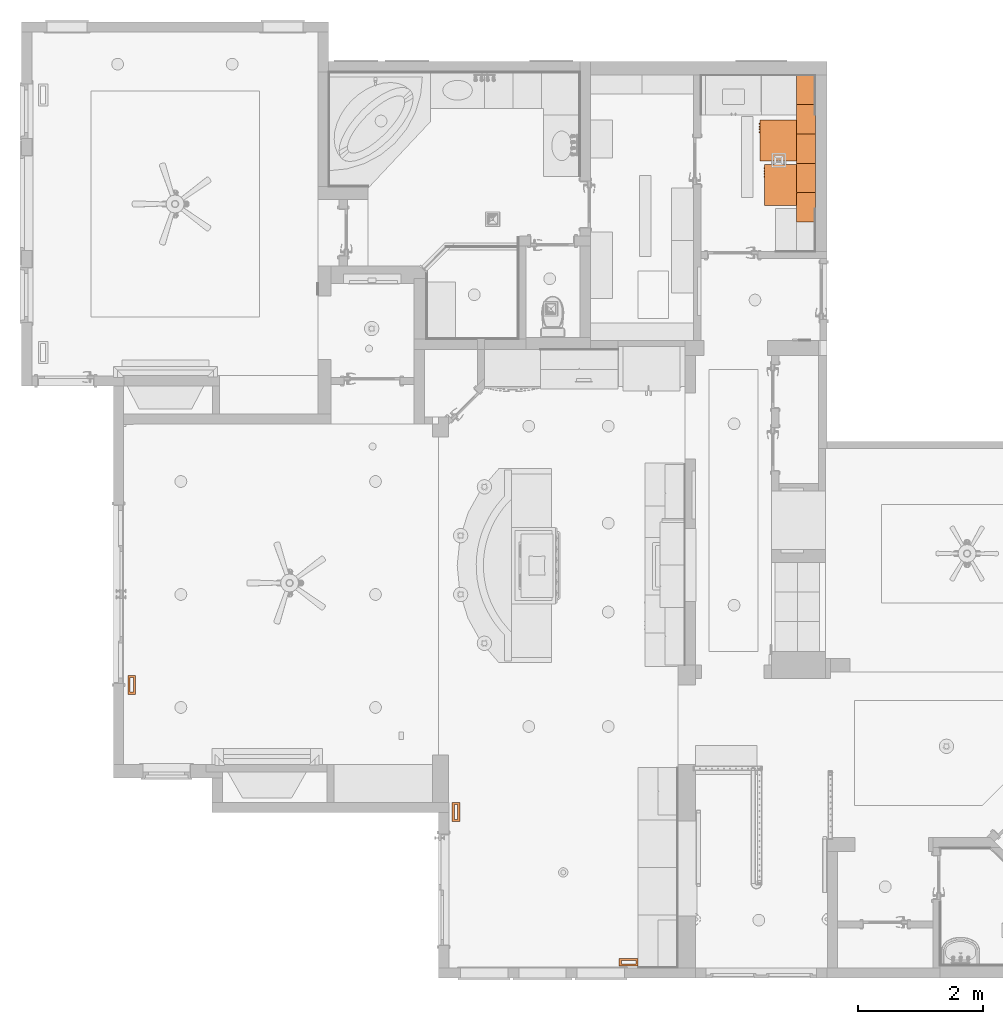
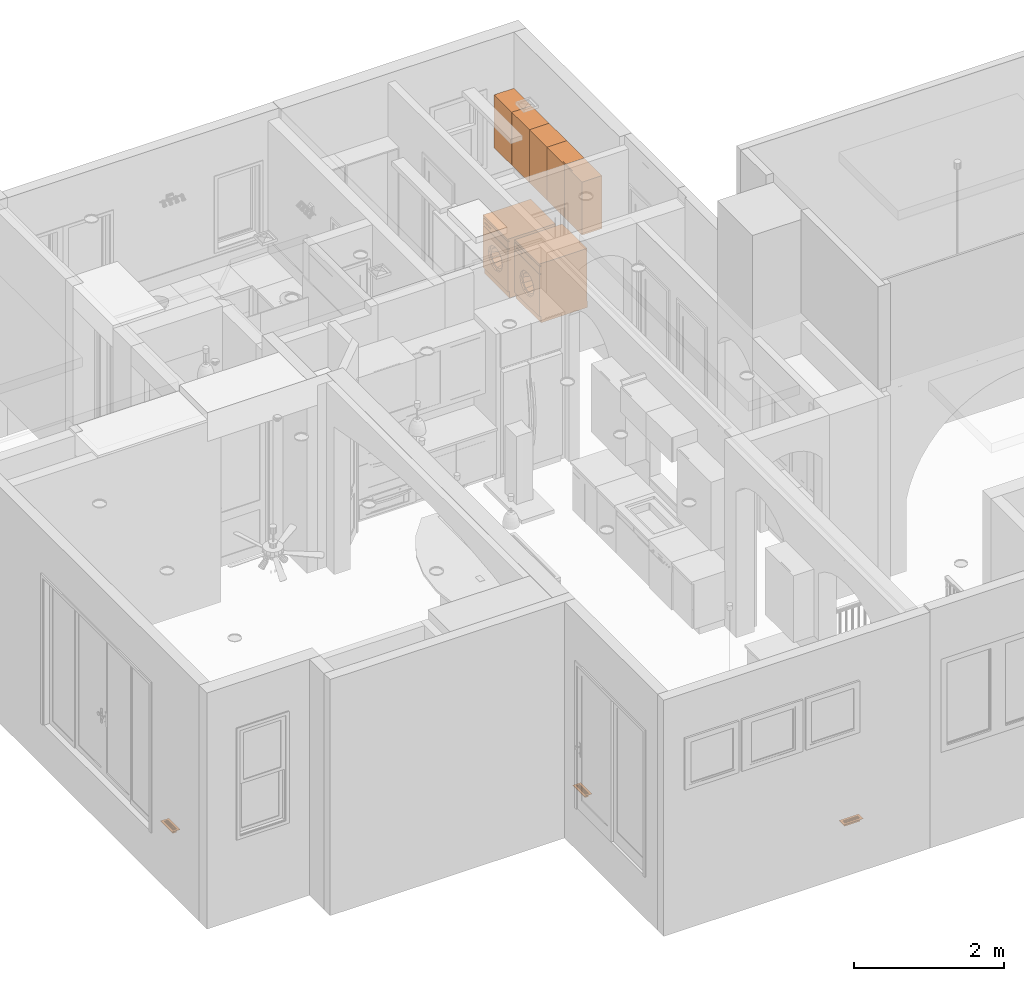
# One storey, part 58 of 77: 10 proxies.
"""IFC2X3 building model written with IfcOpenShell, lengths in inches."""

from ifc_helpers import new_model, entity, si_unit, converted_unit, derived_unit, money_unit, direction, frame, origin_with_axes, place, context, subcontext, project, spatial, open_shell, faceted_brep, surface_model, source, transform, mapped, type_object, element, save


model = new_model("IFC2X3")

# Units and contexts
model_context = context("Model", 3, precision=0.000393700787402, world=origin_with_axes(), true_north=direction((0.0, 1.0)))
body_context = subcontext(model_context, "Body", "Model", "MODEL_VIEW")
ifc_project = project(units=[converted_unit("LENGTHUNIT", "INCH", entity("IfcPositiveLengthMeasure", 0.0254), si_unit("LENGTHUNIT", "METRE"), dimensions=[1, 0, 0, 0, 0, 0, 0]), converted_unit("AREAUNIT", "SQUARE_FOOT", entity("IfcPositiveLengthMeasure", 0.09290304), si_unit("AREAUNIT", "SQUARE_METRE"), dimensions=[2, 0, 0, 0, 0, 0, 0]), si_unit("PLANEANGLEUNIT", "RADIAN"), si_unit("SOLIDANGLEUNIT", "STERADIAN"), money_unit("USD"), converted_unit("TIMEUNIT", "Year", entity("IfcTimeMeasure", 31556926.0), si_unit("TIMEUNIT", "SECOND"), dimensions=[0, 0, 1, 0, 0, 0, 0]), si_unit("MASSUNIT", "GRAM", prefix="KILO"), si_unit("THERMODYNAMICTEMPERATUREUNIT", "DEGREE_CELSIUS"), si_unit("LUMINOUSINTENSITYUNIT", "LUMEN"), si_unit("ENERGYUNIT", "JOULE", prefix="MEGA"), derived_unit("THERMALCONDUCTANCEUNIT", [(si_unit("POWERUNIT", "WATT"), 1), (si_unit("LENGTHUNIT", "METRE"), -1), (si_unit("THERMODYNAMICTEMPERATUREUNIT", "KELVIN"), -1)]), derived_unit("SPECIFICHEATCAPACITYUNIT", [(si_unit("ENERGYUNIT", "JOULE"), 1), (si_unit("MASSUNIT", "GRAM", prefix="KILO"), -1), (si_unit("THERMODYNAMICTEMPERATUREUNIT", "KELVIN"), -1)]), derived_unit("MASSDENSITYUNIT", [(si_unit("MASSUNIT", "GRAM", prefix="KILO"), 1), (si_unit("VOLUMEUNIT", "CUBIC_METRE"), -1)])], contexts=[model_context])

# Site, building, storey
site_placement = place(None, origin_with_axes())
site = spatial("IfcSite", under=ifc_project, at=site_placement, Name="Site", CompositionType="ELEMENT")
building_placement = place(site_placement, origin_with_axes())
building = spatial("IfcBuilding", under=site, at=building_placement, Name="Building", CompositionType="ELEMENT")
storey_placement = place(building_placement, frame((0.0, 0.0, 127.952755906), z_axis=(0.0, 0.0, 1.0), x_axis=(1.0, 0.0, 0.0)))
storey = spatial("IfcBuildingStorey", under=building, at=storey_placement, Name="Second Floor", CompositionType="ELEMENT", Elevation=127.953)

# Proxies
building_element_proxy_type_1 = type_object("IfcBuildingElementProxyType", Name="Wall Cabinet Block 25", PredefinedType="NOTDEFINED")
shared_shape_1 = source(origin_with_axes(), body_context, "Body", "Brep", [
    faceted_brep([(-0.75, -11.25, 76.6525590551), (-0.75, -11.25, 77.4025590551), (-17.7539370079, -11.25, 77.4025590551), (-17.7539370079, -11.25, 76.6525590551), (-0.75, -0.75, 76.6525590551), (-0.75, -0.75, 77.4025590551), (-17.7539370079, -0.75, 77.4025590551), (-17.7539370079, -0.75, 76.6525590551)], [[[0, 1, 2, 3]], [[4, 5, 1, 0]], [[1, 5, 6, 2]], [[3, 2, 6, 7]], [[0, 3, 7, 4]], [[7, 6, 5, 4]]]),
    faceted_brep([(-0.0393700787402, -11.25, 60.0393700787), (-0.0393700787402, -12.0, 60.0393700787), (-18.4645669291, -12.0, 60.0393700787), (-18.4645669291, -11.25, 60.0393700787), (-0.0393700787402, -11.25, 94.0157480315), (-0.0393700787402, -12.0, 94.0157480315), (-18.4645669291, -12.0, 94.0157480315), (-18.4645669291, -11.25, 94.0157480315)], [[[0, 1, 2, 3]], [[4, 5, 1, 0]], [[1, 5, 6, 2]], [[3, 2, 6, 7]], [[0, 3, 7, 4]], [[7, 6, 5, 4]]]),
    faceted_brep([(-0.75, -11.25, 60.0), (-0.75, -11.25, 60.75), (-17.7539370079, -11.25, 60.75), (-17.7539370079, -11.25, 60.0), (-0.75, 0.0, 60.0), (-0.75, 0.0, 60.75), (-17.7539370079, 0.0, 60.75), (-17.7539370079, 0.0, 60.0)], [[[0, 1, 2, 3]], [[4, 5, 1, 0]], [[1, 5, 6, 2]], [[3, 2, 6, 7]], [[0, 3, 7, 4]], [[7, 6, 5, 4]]]),
    faceted_brep([(-0.75, -11.25, 93.3051181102), (-0.75, -11.25, 94.0551181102), (-17.7539370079, -11.25, 94.0551181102), (-17.7539370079, -11.25, 93.3051181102), (-0.75, 0.0, 93.3051181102), (-0.75, 0.0, 94.0551181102), (-17.7539370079, 0.0, 94.0551181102), (-17.7539370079, 0.0, 93.3051181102)], [[[0, 1, 2, 3]], [[4, 5, 1, 0]], [[1, 5, 6, 2]], [[3, 2, 6, 7]], [[0, 3, 7, 4]], [[7, 6, 5, 4]]]),
    faceted_brep([(0.0, 0.0, 60.0), (0.0, 0.0, 94.0551181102), (0.0, -11.25, 94.0551181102), (0.0, -11.25, 60.0), (-0.75, 0.0, 60.0), (-0.75, 0.0, 94.0551181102), (-0.75, -11.25, 94.0551181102), (-0.75, -11.25, 60.0)], [[[0, 1, 2, 3]], [[4, 5, 1, 0]], [[1, 5, 6, 2]], [[3, 2, 6, 7]], [[0, 3, 7, 4]], [[7, 6, 5, 4]]]),
    faceted_brep([(-18.5039370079, -11.25, 60.0), (-18.5039370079, -11.25, 94.0551181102), (-18.5039370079, 0.0, 94.0551181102), (-18.5039370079, 0.0, 60.0), (-17.7539370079, -11.25, 60.0), (-17.7539370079, -11.25, 94.0551181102), (-17.7539370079, 0.0, 94.0551181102), (-17.7539370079, 0.0, 60.0)], [[[0, 1, 2, 3]], [[4, 5, 1, 0]], [[1, 5, 6, 2]], [[3, 2, 6, 7]], [[0, 3, 7, 4]], [[7, 6, 5, 4]]]),
    faceted_brep([(-17.7539370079, -0.375, 60.75), (-17.7539370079, -0.375, 93.3051181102), (-0.75, -0.375, 93.3051181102), (-0.75, -0.375, 60.75), (-17.7539370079, -0.75, 60.75), (-17.7539370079, -0.75, 93.3051181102), (-0.75, -0.75, 93.3051181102), (-0.75, -0.75, 60.75)], [[[0, 1, 2, 3]], [[4, 5, 1, 0]], [[1, 5, 6, 2]], [[3, 2, 6, 7]], [[0, 3, 7, 4]], [[7, 6, 5, 4]]]),
])
for number, where, z_axis, x_axis, name in (
    (1, (719.519431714, 506.998678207, -4.09448818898), (0.0, 0.0, 1.0), (0.0, -1.0, 0.0), "FU - 008"),
    (2, (719.519431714, 544.006552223, -4.09448818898), (0.0, 0.0, 1.0), (0.0, -1.0, 0.0), "FU - 008"),
):
    element("IfcBuildingElementProxy", number, at=place(storey_placement, frame(where, z_axis=z_axis, x_axis=x_axis)), inside=storey, type_object=building_element_proxy_type_1, Name=name, context=body_context, shape_type="MappedRepresentation", body=[
        mapped(shared_shape_1, transform((0.0, 0.0, 0.0))),
    ])
building_element_proxy_type_2 = type_object("IfcBuildingElementProxyType", Name="Washer 25", PredefinedType="NOTDEFINED")
shared_shape_2 = source(origin_with_axes(), body_context, "Body", "SurfaceModel", [
    faceted_brep([(-13.0, -27.9724409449, 4.22222222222), (13.0, -27.9724409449, 4.22222222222), (13.0, -28.937007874, 4.22222222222), (-13.0, -28.937007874, 4.22222222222), (-13.0, -27.9724409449, 31.2444444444), (13.0, -27.9724409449, 31.2444444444), (7.42857142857, -27.9724409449, 17.7333333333), (6.43333157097, -27.9724409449, 21.4476190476), (3.71428571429, -27.9724409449, 24.1666649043), (0.0, -27.9724409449, 25.1619047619), (-3.71428571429, -27.9724409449, 24.1666649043), (-6.43333157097, -27.9724409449, 21.4476190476), (-7.42857142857, -27.9724409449, 17.7333333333), (-6.43333157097, -27.9724409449, 14.019047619), (-3.71428571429, -27.9724409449, 11.3000017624), (0.0, -27.9724409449, 10.3047619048), (3.71428571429, -27.9724409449, 11.3000017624), (6.43333157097, -27.9724409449, 14.019047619), (13.0, -28.937007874, 31.2444444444), (-13.0, -28.937007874, 31.2444444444), (7.42857142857, -28.937007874, 17.7333333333), (6.43333157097, -28.937007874, 14.019047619), (3.71428571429, -28.937007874, 11.3000017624), (0.0, -28.937007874, 10.3047619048), (-3.71428571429, -28.937007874, 11.3000017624), (-6.43333157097, -28.937007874, 14.019047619), (-7.42857142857, -28.937007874, 17.7333333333), (-6.43333157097, -28.937007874, 21.4476190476), (-3.71428571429, -28.937007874, 24.1666649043), (0.0, -28.937007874, 25.1619047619), (3.71428571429, -28.937007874, 24.1666649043), (6.43333157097, -28.937007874, 21.4476190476)], [[[0, 1, 2, 3]], [[0, 4, 5, 1], [6, 7, 8, 9, 10, 11, 12, 13, 14, 15, 16, 17]], [[1, 5, 18, 2]], [[3, 2, 18, 19], [20, 21, 22, 23, 24, 25, 26, 27, 28, 29, 30, 31]], [[4, 0, 3, 19]], [[5, 4, 19, 18]], [[7, 6, 20, 31]], [[8, 7, 31, 30]], [[9, 8, 30, 29]], [[10, 9, 29, 28]], [[11, 10, 28, 27]], [[12, 11, 27, 26]], [[13, 12, 26, 25]], [[14, 13, 25, 24]], [[15, 14, 24, 23]], [[16, 15, 23, 22]], [[17, 16, 22, 21]], [[6, 17, 21, 20]]]),
    faceted_brep([(7.42857142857, -27.0078740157, 17.7333333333), (6.43333157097, -27.0078740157, 21.4476190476), (6.43333157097, -27.9724409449, 21.4476190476), (7.42857142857, -27.9724409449, 17.7333333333), (6.43333157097, -27.0078740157, 14.019047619), (3.71428571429, -27.0078740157, 11.3000017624), (0.0, -27.0078740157, 10.3047619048), (-3.71428571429, -27.0078740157, 11.3000017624), (-6.43333157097, -27.0078740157, 14.019047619), (-7.42857142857, -27.0078740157, 17.7333333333), (-6.43333157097, -27.0078740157, 21.4476190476), (-3.71428571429, -27.0078740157, 24.1666649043), (0.0, -27.0078740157, 25.1619047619), (3.71428571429, -27.0078740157, 24.1666649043), (5.94285714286, -27.0078740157, 17.7333333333), (5.14666525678, -27.0078740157, 20.7047619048), (2.97142857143, -27.0078740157, 22.8799985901), (0.0, -27.0078740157, 23.6761904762), (-2.97142857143, -27.0078740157, 22.8799985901), (-5.14666525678, -27.0078740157, 20.7047619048), (-5.94285714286, -27.0078740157, 17.7333333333), (-5.14666525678, -27.0078740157, 14.7619047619), (-2.97142857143, -27.0078740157, 12.5866680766), (0.0, -27.0078740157, 11.7904761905), (2.97142857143, -27.0078740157, 12.5866680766), (5.14666525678, -27.0078740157, 14.7619047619), (3.71428571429, -27.9724409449, 24.1666649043), (0.0, -27.9724409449, 25.1619047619), (-3.71428571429, -27.9724409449, 24.1666649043), (-6.43333157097, -27.9724409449, 21.4476190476), (-7.42857142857, -27.9724409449, 17.7333333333), (-6.43333157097, -27.9724409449, 14.019047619), (-3.71428571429, -27.9724409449, 11.3000017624), (0.0, -27.9724409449, 10.3047619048), (3.71428571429, -27.9724409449, 11.3000017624), (6.43333157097, -27.9724409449, 14.019047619), (5.94285714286, -27.9724409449, 17.7333333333), (5.14666525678, -27.9724409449, 14.7619047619), (2.97142857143, -27.9724409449, 12.5866680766), (0.0, -27.9724409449, 11.7904761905), (-2.97142857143, -27.9724409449, 12.5866680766), (-5.14666525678, -27.9724409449, 14.7619047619), (-5.94285714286, -27.9724409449, 17.7333333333), (-5.14666525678, -27.9724409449, 20.7047619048), (-2.97142857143, -27.9724409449, 22.8799985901), (0.0, -27.9724409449, 23.6761904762), (2.97142857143, -27.9724409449, 22.8799985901), (5.14666525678, -27.9724409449, 20.7047619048)], [[[0, 1, 2, 3]], [[0, 4, 5, 6, 7, 8, 9, 10, 11, 12, 13, 1], [14, 15, 16, 17, 18, 19, 20, 21, 22, 23, 24, 25]], [[1, 13, 26, 2]], [[3, 2, 26, 27, 28, 29, 30, 31, 32, 33, 34, 35], [36, 37, 38, 39, 40, 41, 42, 43, 44, 45, 46, 47]], [[4, 0, 3, 35]], [[5, 4, 35, 34]], [[6, 5, 34, 33]], [[7, 6, 33, 32]], [[8, 7, 32, 31]], [[9, 8, 31, 30]], [[10, 9, 30, 29]], [[11, 10, 29, 28]], [[12, 11, 28, 27]], [[13, 12, 27, 26]], [[15, 14, 36, 47]], [[16, 15, 47, 46]], [[17, 16, 46, 45]], [[18, 17, 45, 44]], [[19, 18, 44, 43]], [[20, 19, 43, 42]], [[21, 20, 42, 41]], [[22, 21, 41, 40]], [[23, 22, 40, 39]], [[24, 23, 39, 38]], [[25, 24, 38, 37]], [[14, 25, 37, 36]]]),
    surface_model("IfcShellBasedSurfaceModel", [(-2.97142857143, -27.0078740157, 22.8799985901), (0.0, -27.0078740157, 23.6761904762), (0.0, -22.1850393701, 22.1904761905), (-2.22857142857, -22.1850393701, 21.5933322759), (2.97142857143, -27.0078740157, 22.8799985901), (2.22857142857, -22.1850393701, 21.5933322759), (3.85999894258, -22.1850393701, 19.9619047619), (4.45714285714, -22.1850393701, 17.7333333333), (3.85999894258, -22.1850393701, 15.5047619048), (2.22857142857, -22.1850393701, 13.8733343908), (0.0, -22.1850393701, 13.2761904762), (-2.22857142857, -22.1850393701, 13.8733343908), (-3.85999894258, -22.1850393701, 15.5047619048), (-4.45714285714, -22.1850393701, 17.7333333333), (-3.85999894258, -22.1850393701, 19.9619047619), (-5.14666525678, -27.0078740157, 20.7047619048), (5.14666525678, -27.0078740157, 20.7047619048), (5.94285714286, -27.0078740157, 17.7333333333), (5.14666525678, -27.0078740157, 14.7619047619), (2.97142857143, -27.0078740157, 12.5866680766), (0.0, -27.0078740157, 11.7904761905), (-2.97142857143, -27.0078740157, 12.5866680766), (-5.14666525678, -27.0078740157, 14.7619047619), (-5.94285714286, -27.0078740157, 17.7333333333)], [open_shell([[[0, 1, 2, 3]], [[1, 4, 5, 2]], [[2, 5, 6, 7, 8, 9, 10, 11, 12, 13, 14, 3]], [[15, 0, 3, 14]], [[4, 16, 6, 5]], [[16, 17, 7, 6]], [[17, 18, 8, 7]], [[18, 19, 9, 8]], [[19, 20, 10, 9]], [[20, 21, 11, 10]], [[21, 22, 12, 11]], [[22, 23, 13, 12]], [[23, 15, 14, 13]]])]),
    surface_model("IfcShellBasedSurfaceModel", [(-13.0, -27.9724409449, 4.22222222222), (-13.0, -27.9724409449, 36.7333333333), (-13.0, 0.0, 36.7333333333), (-13.0, 0.0, 4.22222222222)], [open_shell([[[0, 1, 2, 3]]])]),
    surface_model("IfcShellBasedSurfaceModel", [(13.0, -27.9724409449, 4.22222222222), (13.0, -27.9724409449, 36.7333333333), (13.0, 0.0, 36.7333333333), (13.0, 0.0, 4.22222222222)], [open_shell([[[0, 1, 2, 3]]])]),
    surface_model("IfcShellBasedSurfaceModel", [(-13.0, 0.0, 4.22222222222), (-13.0, 0.0, 36.7333333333), (13.0, 0.0, 36.7333333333), (13.0, 0.0, 4.22222222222)], [open_shell([[[0, 1, 2, 3]]])]),
    faceted_brep([(-13.0, -27.9724409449, 0.0), (13.0, -27.9724409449, 0.0), (13.0, -27.9724409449, 4.22222222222), (-13.0, -27.9724409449, 4.22222222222), (-13.0, 0.177165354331, 0.0), (13.0, 0.177165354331, 0.0), (13.0, 0.177165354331, 4.22222222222), (-13.0, 0.177165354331, 4.22222222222)], [[[0, 1, 2, 3]], [[0, 4, 5, 1]], [[1, 5, 6, 2]], [[3, 2, 6, 7]], [[4, 0, 3, 7]], [[5, 4, 7, 6]]]),
    faceted_brep([(-13.0, -27.9724409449, 31.6666666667), (13.0, -27.9724409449, 31.6666666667), (13.0, -28.937007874, 31.6666666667), (-13.0, -28.937007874, 31.6666666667), (-13.0, -27.9724409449, 36.3111111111), (13.0, -27.9724409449, 36.3111111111), (13.0, -28.937007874, 36.3111111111), (-13.0, -28.937007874, 36.3111111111)], [[[0, 1, 2, 3]], [[0, 4, 5, 1]], [[1, 5, 6, 2]], [[3, 2, 6, 7]], [[4, 0, 3, 7]], [[5, 4, 7, 6]]]),
    surface_model("IfcShellBasedSurfaceModel", [(-13.0, -27.9724409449, 31.2444444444), (-13.0, -27.9724409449, 36.7333333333), (13.0, -27.9724409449, 36.7333333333), (13.0, -27.9724409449, 31.2444444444)], [open_shell([[[0, 1, 2, 3]]])]),
    faceted_brep([(-13.0, -28.937007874, 36.7333333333), (13.0, -28.937007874, 36.7333333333), (13.0, -28.937007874, 38.0), (-13.0, -28.937007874, 38.0), (-13.0, 0.0, 36.7333333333), (13.0, 0.0, 36.7333333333), (13.0, 0.0, 38.0), (-13.0, 0.0, 38.0)], [[[0, 1, 2, 3]], [[0, 4, 5, 1]], [[1, 5, 6, 2]], [[3, 2, 6, 7]], [[4, 0, 3, 7]], [[5, 4, 7, 6]]]),
    faceted_brep([(-10.024722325, -28.937007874, 33.9833333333), (-10.1833333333, -28.937007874, 33.824722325), (-10.4, -28.937007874, 33.7666666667), (-10.6166666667, -28.937007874, 33.824722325), (-10.775277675, -28.937007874, 33.9833333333), (-10.8333333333, -28.937007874, 34.2), (-10.775277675, -28.937007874, 34.4166666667), (-10.6166666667, -28.937007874, 34.575277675), (-10.4, -28.937007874, 34.6333333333), (-10.1833333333, -28.937007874, 34.575277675), (-10.024722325, -28.937007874, 34.4166666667), (-9.96666666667, -28.937007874, 34.2), (-10.024722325, -29.4192913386, 33.9833333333), (-10.1833333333, -29.4192913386, 33.824722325), (-10.4, -29.4192913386, 33.7666666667), (-10.6166666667, -29.4192913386, 33.824722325), (-10.775277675, -29.4192913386, 33.9833333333), (-10.8333333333, -29.4192913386, 34.2), (-10.775277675, -29.4192913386, 34.4166666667), (-10.6166666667, -29.4192913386, 34.575277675), (-10.4, -29.4192913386, 34.6333333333), (-10.1833333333, -29.4192913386, 34.575277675), (-10.024722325, -29.4192913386, 34.4166666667), (-9.96666666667, -29.4192913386, 34.2)], [[[0, 1, 2, 3, 4, 5, 6, 7, 8, 9, 10, 11]], [[1, 0, 12, 13]], [[2, 1, 13, 14]], [[3, 2, 14, 15]], [[4, 3, 15, 16]], [[5, 4, 16, 17]], [[6, 5, 17, 18]], [[7, 6, 18, 19]], [[8, 7, 19, 20]], [[9, 8, 20, 21]], [[10, 9, 21, 22]], [[11, 10, 22, 23]], [[0, 11, 23, 12]], [[12, 23, 22, 21, 20, 19, 18, 17, 16, 15, 14, 13]]]),
    faceted_brep([(-8.29138899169, -28.937007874, 33.9833333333), (-8.45, -28.937007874, 33.824722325), (-8.66666666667, -28.937007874, 33.7666666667), (-8.88333333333, -28.937007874, 33.824722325), (-9.04194434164, -28.937007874, 33.9833333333), (-9.1, -28.937007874, 34.2), (-9.04194434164, -28.937007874, 34.4166666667), (-8.88333333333, -28.937007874, 34.575277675), (-8.66666666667, -28.937007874, 34.6333333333), (-8.45, -28.937007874, 34.575277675), (-8.29138899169, -28.937007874, 34.4166666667), (-8.23333333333, -28.937007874, 34.2), (-8.29138899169, -29.4192913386, 33.9833333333), (-8.45, -29.4192913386, 33.824722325), (-8.66666666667, -29.4192913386, 33.7666666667), (-8.88333333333, -29.4192913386, 33.824722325), (-9.04194434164, -29.4192913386, 33.9833333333), (-9.1, -29.4192913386, 34.2), (-9.04194434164, -29.4192913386, 34.4166666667), (-8.88333333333, -29.4192913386, 34.575277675), (-8.66666666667, -29.4192913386, 34.6333333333), (-8.45, -29.4192913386, 34.575277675), (-8.29138899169, -29.4192913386, 34.4166666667), (-8.23333333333, -29.4192913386, 34.2)], [[[0, 1, 2, 3, 4, 5, 6, 7, 8, 9, 10, 11]], [[1, 0, 12, 13]], [[2, 1, 13, 14]], [[3, 2, 14, 15]], [[4, 3, 15, 16]], [[5, 4, 16, 17]], [[6, 5, 17, 18]], [[7, 6, 18, 19]], [[8, 7, 19, 20]], [[9, 8, 20, 21]], [[10, 9, 21, 22]], [[11, 10, 22, 23]], [[0, 11, 23, 12]], [[12, 23, 22, 21, 20, 19, 18, 17, 16, 15, 14, 13]]]),
    faceted_brep([(-6.55805565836, -28.937007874, 33.9833333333), (-6.71666666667, -28.937007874, 33.824722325), (-6.93333333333, -28.937007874, 33.7666666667), (-7.15, -28.937007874, 33.824722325), (-7.30861100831, -28.937007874, 33.9833333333), (-7.36666666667, -28.937007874, 34.2), (-7.30861100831, -28.937007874, 34.4166666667), (-7.15, -28.937007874, 34.575277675), (-6.93333333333, -28.937007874, 34.6333333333), (-6.71666666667, -28.937007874, 34.575277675), (-6.55805565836, -28.937007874, 34.4166666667), (-6.5, -28.937007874, 34.2), (-6.55805565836, -29.4192913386, 33.9833333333), (-6.71666666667, -29.4192913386, 33.824722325), (-6.93333333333, -29.4192913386, 33.7666666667), (-7.15, -29.4192913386, 33.824722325), (-7.30861100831, -29.4192913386, 33.9833333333), (-7.36666666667, -29.4192913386, 34.2), (-7.30861100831, -29.4192913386, 34.4166666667), (-7.15, -29.4192913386, 34.575277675), (-6.93333333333, -29.4192913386, 34.6333333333), (-6.71666666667, -29.4192913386, 34.575277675), (-6.55805565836, -29.4192913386, 34.4166666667), (-6.5, -29.4192913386, 34.2)], [[[0, 1, 2, 3, 4, 5, 6, 7, 8, 9, 10, 11]], [[1, 0, 12, 13]], [[2, 1, 13, 14]], [[3, 2, 14, 15]], [[4, 3, 15, 16]], [[5, 4, 16, 17]], [[6, 5, 17, 18]], [[7, 6, 18, 19]], [[8, 7, 19, 20]], [[9, 8, 20, 21]], [[10, 9, 21, 22]], [[11, 10, 22, 23]], [[0, 11, 23, 12]], [[12, 23, 22, 21, 20, 19, 18, 17, 16, 15, 14, 13]]]),
    faceted_brep([(-4.82472232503, -28.937007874, 33.9833333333), (-4.98333333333, -28.937007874, 33.824722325), (-5.2, -28.937007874, 33.7666666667), (-5.41666666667, -28.937007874, 33.824722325), (-5.57527767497, -28.937007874, 33.9833333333), (-5.63333333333, -28.937007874, 34.2), (-5.57527767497, -28.937007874, 34.4166666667), (-5.41666666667, -28.937007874, 34.575277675), (-5.2, -28.937007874, 34.6333333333), (-4.98333333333, -28.937007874, 34.575277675), (-4.82472232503, -28.937007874, 34.4166666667), (-4.76666666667, -28.937007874, 34.2), (-4.82472232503, -29.4192913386, 33.9833333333), (-4.98333333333, -29.4192913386, 33.824722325), (-5.2, -29.4192913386, 33.7666666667), (-5.41666666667, -29.4192913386, 33.824722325), (-5.57527767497, -29.4192913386, 33.9833333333), (-5.63333333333, -29.4192913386, 34.2), (-5.57527767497, -29.4192913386, 34.4166666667), (-5.41666666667, -29.4192913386, 34.575277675), (-5.2, -29.4192913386, 34.6333333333), (-4.98333333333, -29.4192913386, 34.575277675), (-4.82472232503, -29.4192913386, 34.4166666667), (-4.76666666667, -29.4192913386, 34.2)], [[[0, 1, 2, 3, 4, 5, 6, 7, 8, 9, 10, 11]], [[1, 0, 12, 13]], [[2, 1, 13, 14]], [[3, 2, 14, 15]], [[4, 3, 15, 16]], [[5, 4, 16, 17]], [[6, 5, 17, 18]], [[7, 6, 18, 19]], [[8, 7, 19, 20]], [[9, 8, 20, 21]], [[10, 9, 21, 22]], [[11, 10, 22, 23]], [[0, 11, 23, 12]], [[12, 23, 22, 21, 20, 19, 18, 17, 16, 15, 14, 13]]]),
])
for number, where, z_axis, x_axis, name in (
    (3, (716.489643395, 511.898451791, 0.0), (0.0, 0.0, 1.0), (0.0, -1.0, 0.0), "FU - 010"),
    (4, (713.487247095, 539.90717231, 0.0), (0.0, 0.0, 1.0), (0.0, -1.0, 0.0), "FU - 010"),
):
    element("IfcBuildingElementProxy", number, at=place(storey_placement, frame(where, z_axis=z_axis, x_axis=x_axis)), inside=storey, type_object=building_element_proxy_type_2, Name=name, context=body_context, shape_type="MappedRepresentation", body=[
        mapped(shared_shape_2, transform((0.0, 0.0, 0.0))),
    ])
shared_shape_3 = source(origin_with_axes(), body_context, "Body", "Brep", [
    faceted_brep([(0.75, -11.25, 76.6525590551), (17.7539370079, -11.25, 76.6525590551), (17.7539370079, -11.25, 77.4025590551), (0.75, -11.25, 77.4025590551), (0.75, -0.75, 76.6525590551), (17.7539370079, -0.75, 76.6525590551), (17.7539370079, -0.75, 77.4025590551), (0.75, -0.75, 77.4025590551)], [[[0, 1, 2, 3]], [[0, 4, 5, 1]], [[1, 5, 6, 2]], [[3, 2, 6, 7]], [[4, 0, 3, 7]], [[5, 4, 7, 6]]]),
    faceted_brep([(0.0393700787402, -11.25, 60.0393700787), (18.4645669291, -11.25, 60.0393700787), (18.4645669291, -12.0, 60.0393700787), (0.0393700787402, -12.0, 60.0393700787), (0.0393700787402, -11.25, 94.0157480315), (18.4645669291, -11.25, 94.0157480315), (18.4645669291, -12.0, 94.0157480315), (0.0393700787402, -12.0, 94.0157480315)], [[[0, 1, 2, 3]], [[0, 4, 5, 1]], [[1, 5, 6, 2]], [[3, 2, 6, 7]], [[4, 0, 3, 7]], [[5, 4, 7, 6]]]),
    faceted_brep([(0.75, -11.25, 60.0), (17.7539370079, -11.25, 60.0), (17.7539370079, -11.25, 60.75), (0.75, -11.25, 60.75), (0.75, 0.0, 60.0), (17.7539370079, 0.0, 60.0), (17.7539370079, 0.0, 60.75), (0.75, 0.0, 60.75)], [[[0, 1, 2, 3]], [[0, 4, 5, 1]], [[1, 5, 6, 2]], [[3, 2, 6, 7]], [[4, 0, 3, 7]], [[5, 4, 7, 6]]]),
    faceted_brep([(0.75, -11.25, 93.3051181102), (17.7539370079, -11.25, 93.3051181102), (17.7539370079, -11.25, 94.0551181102), (0.75, -11.25, 94.0551181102), (0.75, 0.0, 93.3051181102), (17.7539370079, 0.0, 93.3051181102), (17.7539370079, 0.0, 94.0551181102), (0.75, 0.0, 94.0551181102)], [[[0, 1, 2, 3]], [[0, 4, 5, 1]], [[1, 5, 6, 2]], [[3, 2, 6, 7]], [[4, 0, 3, 7]], [[5, 4, 7, 6]]]),
    faceted_brep([(0.0, 0.0, 60.0), (0.0, -11.25, 60.0), (0.0, -11.25, 94.0551181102), (0.0, 0.0, 94.0551181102), (0.75, 0.0, 60.0), (0.75, -11.25, 60.0), (0.75, -11.25, 94.0551181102), (0.75, 0.0, 94.0551181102)], [[[0, 1, 2, 3]], [[0, 4, 5, 1]], [[1, 5, 6, 2]], [[3, 2, 6, 7]], [[4, 0, 3, 7]], [[5, 4, 7, 6]]]),
    faceted_brep([(18.5039370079, -11.25, 60.0), (18.5039370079, 0.0, 60.0), (18.5039370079, 0.0, 94.0551181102), (18.5039370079, -11.25, 94.0551181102), (17.7539370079, -11.25, 60.0), (17.7539370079, 0.0, 60.0), (17.7539370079, 0.0, 94.0551181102), (17.7539370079, -11.25, 94.0551181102)], [[[0, 1, 2, 3]], [[0, 4, 5, 1]], [[1, 5, 6, 2]], [[3, 2, 6, 7]], [[4, 0, 3, 7]], [[5, 4, 7, 6]]]),
    faceted_brep([(17.7539370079, -0.375, 60.75), (0.75, -0.375, 60.75), (0.75, -0.375, 93.3051181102), (17.7539370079, -0.375, 93.3051181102), (17.7539370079, -0.75, 60.75), (0.75, -0.75, 60.75), (0.75, -0.75, 93.3051181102), (17.7539370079, -0.75, 93.3051181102)], [[[0, 1, 2, 3]], [[0, 4, 5, 1]], [[1, 5, 6, 2]], [[3, 2, 6, 7]], [[4, 0, 3, 7]], [[5, 4, 7, 6]]]),
])
for number, where, z_axis, x_axis, name in (
    (5, (719.519431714, 544.006552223, -4.09448818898), (0.0, 0.0, 1.0), (0.0, -1.0, 0.0), "FU - 008"),
    (6, (719.519431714, 581.014426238, -4.09448818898), (0.0, 0.0, 1.0), (0.0, -1.0, 0.0), "FU - 008"),
    (7, (719.519431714, 506.998678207, -4.09448818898), (0.0, 0.0, 1.0), (0.0, -1.0, 0.0), "FU - 008"),
):
    element("IfcBuildingElementProxy", number, at=place(storey_placement, frame(where, z_axis=z_axis, x_axis=x_axis)), inside=storey, type_object=building_element_proxy_type_1, Name=name, context=body_context, shape_type="MappedRepresentation", body=[
        mapped(shared_shape_3, transform((0.0, 0.0, 0.0))),
    ])
building_element_proxy_type_3 = type_object("IfcBuildingElementProxyType", Name="Rect Floor Register 25", PredefinedType="NOTDEFINED")
shared_shape_4 = source(origin_with_axes(), body_context, "Body", "SurfaceModel", [
    faceted_brep([(6.00393700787, 2.45669291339, 0.0), (-6.00393700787, 2.45669291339, 0.0), (-6.00393700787, 2.45669291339, 0.196850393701), (6.00393700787, 2.45669291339, 0.196850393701), (6.00393700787, -2.45669291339, 0.0), (-6.00393700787, -2.45669291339, 0.0), (4.62598425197, 1.07874015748, 0.0), (-4.62598425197, 1.07874015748, 0.0), (-4.62598425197, -1.07874015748, 0.0), (4.62598425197, -1.07874015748, 0.0), (-6.00393700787, -2.45669291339, 0.196850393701), (6.00393700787, -2.45669291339, 0.196850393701), (4.62598425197, 1.07874015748, 0.196850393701), (4.62598425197, -1.07874015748, 0.196850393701), (-4.62598425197, -1.07874015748, 0.196850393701), (-4.62598425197, 1.07874015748, 0.196850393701)], [[[0, 1, 2, 3]], [[0, 4, 5, 1], [6, 7, 8, 9]], [[1, 5, 10, 2]], [[3, 2, 10, 11], [12, 13, 14, 15]], [[4, 0, 3, 11]], [[5, 4, 11, 10]], [[7, 6, 12, 15]], [[8, 7, 15, 14]], [[9, 8, 14, 13]], [[6, 9, 13, 12]]]),
    surface_model("IfcShellBasedSurfaceModel", [(-4.58661417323, 0.984251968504, -0.787401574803), (4.58661417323, 0.984251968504, -0.787401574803), (4.58661417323, 0.984251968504, 0.196850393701), (-4.58661417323, 0.984251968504, 0.196850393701)], [open_shell([[[0, 1, 2, 3]]])]),
    surface_model("IfcShellBasedSurfaceModel", [(-4.58661417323, 0.0, -0.787401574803), (4.58661417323, 0.0, -0.787401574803), (4.58661417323, 0.0, 0.196850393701), (-4.58661417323, 0.0, 0.196850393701)], [open_shell([[[0, 1, 2, 3]]])]),
    surface_model("IfcShellBasedSurfaceModel", [(-4.58661417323, -0.984251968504, -0.787401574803), (4.58661417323, -0.984251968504, -0.787401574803), (4.58661417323, -0.984251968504, 0.196850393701), (-4.58661417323, -0.984251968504, 0.196850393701)], [open_shell([[[0, 1, 2, 3]]])]),
    surface_model("IfcShellBasedSurfaceModel", [(4.42913385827, -1.03937007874, -0.787401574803), (4.42913385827, 1.03937007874, -0.787401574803), (4.42913385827, 1.03937007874, 0.196850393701), (4.42913385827, -1.03937007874, 0.196850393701)], [open_shell([[[0, 1, 2, 3]]])]),
    surface_model("IfcShellBasedSurfaceModel", [(3.44488188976, -1.03937007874, -0.787401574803), (3.44488188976, 1.03937007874, -0.787401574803), (3.44488188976, 1.03937007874, 0.196850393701), (3.44488188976, -1.03937007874, 0.196850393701)], [open_shell([[[0, 1, 2, 3]]])]),
    surface_model("IfcShellBasedSurfaceModel", [(2.46062992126, -1.03937007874, -0.787401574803), (2.46062992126, 1.03937007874, -0.787401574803), (2.46062992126, 1.03937007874, 0.196850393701), (2.46062992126, -1.03937007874, 0.196850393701)], [open_shell([[[0, 1, 2, 3]]])]),
    surface_model("IfcShellBasedSurfaceModel", [(1.47637795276, -1.03937007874, -0.787401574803), (1.47637795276, 1.03937007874, -0.787401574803), (1.47637795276, 1.03937007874, 0.196850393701), (1.47637795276, -1.03937007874, 0.196850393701)], [open_shell([[[0, 1, 2, 3]]])]),
    surface_model("IfcShellBasedSurfaceModel", [(0.492125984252, -1.03937007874, -0.787401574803), (0.492125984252, 1.03937007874, -0.787401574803), (0.492125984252, 1.03937007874, 0.196850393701), (0.492125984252, -1.03937007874, 0.196850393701)], [open_shell([[[0, 1, 2, 3]]])]),
    surface_model("IfcShellBasedSurfaceModel", [(-0.492125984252, -1.03937007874, -0.787401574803), (-0.492125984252, 1.03937007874, -0.787401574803), (-0.492125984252, 1.03937007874, 0.196850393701), (-0.492125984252, -1.03937007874, 0.196850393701)], [open_shell([[[0, 1, 2, 3]]])]),
    surface_model("IfcShellBasedSurfaceModel", [(-1.47637795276, -1.03937007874, -0.787401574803), (-1.47637795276, 1.03937007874, -0.787401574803), (-1.47637795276, 1.03937007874, 0.196850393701), (-1.47637795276, -1.03937007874, 0.196850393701)], [open_shell([[[0, 1, 2, 3]]])]),
    surface_model("IfcShellBasedSurfaceModel", [(-2.46062992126, -1.03937007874, -0.787401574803), (-2.46062992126, 1.03937007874, -0.787401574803), (-2.46062992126, 1.03937007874, 0.196850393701), (-2.46062992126, -1.03937007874, 0.196850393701)], [open_shell([[[0, 1, 2, 3]]])]),
    surface_model("IfcShellBasedSurfaceModel", [(-3.44488188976, -1.03937007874, -0.787401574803), (-3.44488188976, 1.03937007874, -0.787401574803), (-3.44488188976, 1.03937007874, 0.196850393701), (-3.44488188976, -1.03937007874, 0.196850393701)], [open_shell([[[0, 1, 2, 3]]])]),
    surface_model("IfcShellBasedSurfaceModel", [(-4.42913385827, -1.03937007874, -0.787401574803), (-4.42913385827, 1.03937007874, -0.787401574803), (-4.42913385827, 1.03937007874, 0.196850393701), (-4.42913385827, -1.03937007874, 0.196850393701)], [open_shell([[[0, 1, 2, 3]]])]),
    surface_model("IfcShellBasedSurfaceModel", [(-4.62598425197, -1.07874015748, 0.0), (-4.62598425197, 1.07874015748, 0.0), (-4.62598425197, 1.07874015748, -1.96850393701), (-4.62598425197, -1.07874015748, -1.96850393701), (4.62598425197, 1.07874015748, 0.0), (4.62598425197, 1.07874015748, -1.96850393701), (4.62598425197, -1.07874015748, 0.0), (4.62598425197, -1.07874015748, -1.96850393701)], [open_shell([[[0, 1, 2, 3]], [[1, 4, 5, 2]], [[6, 0, 3, 7]], [[4, 6, 7, 5]]])]),
])
for number, where, z_axis, x_axis, name in (
    (8, (602.032950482, 22.8951152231, 0.0), (0.0, 0.0, 1.0), (-1.0, 0.0, 0.0), "FU - 027"),
    (9, (493.446907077, 117.394979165, 0.0), (0.0, 0.0, 1.0), (0.0, -1.0, 0.0), "FU - 027"),
    (10, (289.446336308, 197.395115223, 0.0), (0.0, 0.0, 1.0), (0.0, -1.0, 0.0), "FU - 027"),
):
    element("IfcBuildingElementProxy", number, at=place(storey_placement, frame(where, z_axis=z_axis, x_axis=x_axis)), inside=storey, type_object=building_element_proxy_type_3, Name=name, context=body_context, shape_type="MappedRepresentation", body=[
        mapped(shared_shape_4, transform((0.0, 0.0, 0.0))),
    ])

save(model, "model.ifc")
